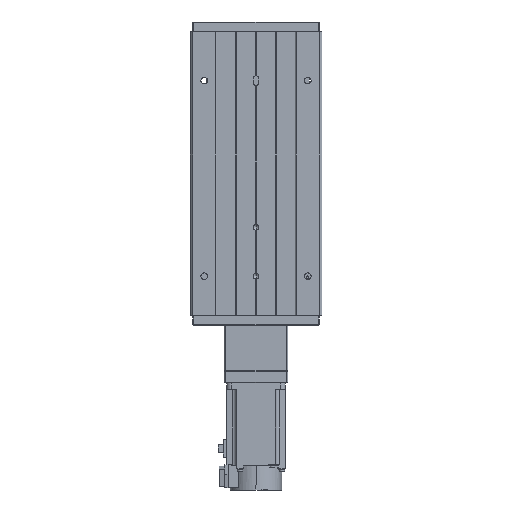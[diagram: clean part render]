
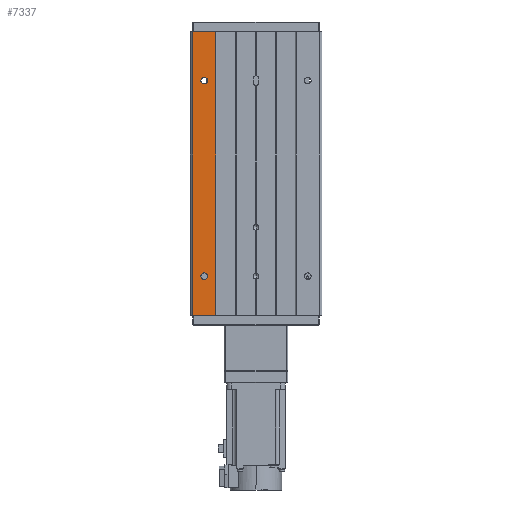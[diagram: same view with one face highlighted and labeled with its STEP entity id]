
A CAD part, front view. The second image highlights one B-rep face of the part: STEP entity #7337.
In plain terms, the highlighted planar face has unit normal (0, -1, 0).
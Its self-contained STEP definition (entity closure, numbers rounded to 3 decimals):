
#81 = LINE ( 'NONE', #12123, #12560 ) ;
#688 = CARTESIAN_POINT ( 'NONE',  ( 53., -1., -95. ) ) ;
#1452 = DIRECTION ( 'NONE',  ( 0., -1., 0. ) ) ;
#2028 = CARTESIAN_POINT ( 'NONE',  ( 41., -1., 145. ) ) ;
#2187 = AXIS2_PLACEMENT_3D ( 'NONE', #28489, #1452, #13483 ) ;
#2190 = CARTESIAN_POINT ( 'NONE',  ( 53., -1., 101.6 ) ) ;
#2231 = EDGE_CURVE ( 'NONE', #30080, #10411, #81, .T. ) ;
#2415 = EDGE_LOOP ( 'NONE', ( #32269, #9621, #26729, #33469 ) ) ;
#3267 = CIRCLE ( 'NONE', #25335, 3.4 ) ;
#4159 = AXIS2_PLACEMENT_3D ( 'NONE', #688, #12728, #24763 ) ;
#4613 = ORIENTED_EDGE ( 'NONE', *, *, #36922, .F. ) ;
#4728 = DIRECTION ( 'NONE',  ( 0., -1., 0. ) ) ;
#6095 = LINE ( 'NONE', #18149, #36548 ) ;
#7329 = CARTESIAN_POINT ( 'NONE',  ( 40., -1., 145. ) ) ;
#7337 = ADVANCED_FACE ( 'NONE', ( #37359, #10309, #22344 ), #34379, .F. ) ;
#7365 = EDGE_CURVE ( 'NONE', #35636, #21245, #14192, .T. ) ;
#8494 = CARTESIAN_POINT ( 'NONE',  ( 40., -1., 145. ) ) ;
#8842 = CARTESIAN_POINT ( 'NONE',  ( 53., -1., -91.6 ) ) ;
#9388 = DIRECTION ( 'NONE',  ( 0., 0., -1. ) ) ;
#9621 = ORIENTED_EDGE ( 'NONE', *, *, #2231, .T. ) ;
#10309 = FACE_BOUND ( 'NONE', #18044, .T. ) ;
#10411 = VERTEX_POINT ( 'NONE', #28324 ) ;
#10498 = ORIENTED_EDGE ( 'NONE', *, *, #33665, .F. ) ;
#12123 = CARTESIAN_POINT ( 'NONE',  ( 64.5, -1., -145. ) ) ;
#12560 = VECTOR ( 'NONE', #24153, 1000. ) ;
#12728 = DIRECTION ( 'NONE',  ( 0., -1., 0. ) ) ;
#13483 = DIRECTION ( 'NONE',  ( 0., 0., -1. ) ) ;
#13908 = CARTESIAN_POINT ( 'NONE',  ( 53., -1., 108.4 ) ) ;
#14192 = LINE ( 'NONE', #26234, #38593 ) ;
#14830 = EDGE_CURVE ( 'NONE', #21245, #30080, #6095, .T. ) ;
#16770 = DIRECTION ( 'NONE',  ( 0., 0., -1. ) ) ;
#17533 = CARTESIAN_POINT ( 'NONE',  ( 41., -1., -145. ) ) ;
#18044 = EDGE_LOOP ( 'NONE', ( #4613, #10498 ) ) ;
#18101 = EDGE_CURVE ( 'NONE', #35636, #10411, #35534, .T. ) ;
#18149 = CARTESIAN_POINT ( 'NONE',  ( 40., -1., -145. ) ) ;
#18409 = AXIS2_PLACEMENT_3D ( 'NONE', #7329, #19382, #31413 ) ;
#19321 = VERTEX_POINT ( 'NONE', #13908 ) ;
#19382 = DIRECTION ( 'NONE',  ( 0., 1., 0. ) ) ;
#19676 = EDGE_CURVE ( 'NONE', #30587, #19321, #26181, .T. ) ;
#20542 = DIRECTION ( 'NONE',  ( 1., 0., 0. ) ) ;
#21175 = CIRCLE ( 'NONE', #4159, 3.4 ) ;
#21245 = VERTEX_POINT ( 'NONE', #17533 ) ;
#22344 = FACE_OUTER_BOUND ( 'NONE', #2415, .T. ) ;
#22693 = CARTESIAN_POINT ( 'NONE',  ( 53., -1., 105. ) ) ;
#23170 = ORIENTED_EDGE ( 'NONE', *, *, #19676, .F. ) ;
#24153 = DIRECTION ( 'NONE',  ( 0., 0., 1. ) ) ;
#24383 = CARTESIAN_POINT ( 'NONE',  ( 53., -1., -95. ) ) ;
#24763 = DIRECTION ( 'NONE',  ( 0., 0., -1. ) ) ;
#24976 = EDGE_LOOP ( 'NONE', ( #23170, #36983 ) ) ;
#25084 = VERTEX_POINT ( 'NONE', #34781 ) ;
#25335 = AXIS2_PLACEMENT_3D ( 'NONE', #24383, #36429, #9388 ) ;
#26181 = CIRCLE ( 'NONE', #31212, 3.4 ) ;
#26234 = CARTESIAN_POINT ( 'NONE',  ( 41., -1., 145. ) ) ;
#26729 = ORIENTED_EDGE ( 'NONE', *, *, #18101, .F. ) ;
#28324 = CARTESIAN_POINT ( 'NONE',  ( 64.5, -1., 145. ) ) ;
#28489 = CARTESIAN_POINT ( 'NONE',  ( 53., -1., 105. ) ) ;
#30080 = VERTEX_POINT ( 'NONE', #34609 ) ;
#30190 = DIRECTION ( 'NONE',  ( 1., 0., 0. ) ) ;
#30587 = VERTEX_POINT ( 'NONE', #2190 ) ;
#31206 = VERTEX_POINT ( 'NONE', #8842 ) ;
#31212 = AXIS2_PLACEMENT_3D ( 'NONE', #22693, #4728, #16770 ) ;
#31413 = DIRECTION ( 'NONE',  ( -1., 0., 0. ) ) ;
#32269 = ORIENTED_EDGE ( 'NONE', *, *, #14830, .T. ) ;
#33469 = ORIENTED_EDGE ( 'NONE', *, *, #7365, .T. ) ;
#33665 = EDGE_CURVE ( 'NONE', #31206, #25084, #3267, .T. ) ;
#34379 = PLANE ( 'NONE',  #18409 ) ;
#34609 = CARTESIAN_POINT ( 'NONE',  ( 64.5, -1., -145. ) ) ;
#34781 = CARTESIAN_POINT ( 'NONE',  ( 53., -1., -98.4 ) ) ;
#35534 = LINE ( 'NONE', #8494, #38695 ) ;
#35542 = EDGE_CURVE ( 'NONE', #19321, #30587, #36225, .T. ) ;
#35636 = VERTEX_POINT ( 'NONE', #2028 ) ;
#36225 = CIRCLE ( 'NONE', #2187, 3.4 ) ;
#36429 = DIRECTION ( 'NONE',  ( 0., -1., 0. ) ) ;
#36548 = VECTOR ( 'NONE', #30190, 1000. ) ;
#36922 = EDGE_CURVE ( 'NONE', #25084, #31206, #21175, .T. ) ;
#36983 = ORIENTED_EDGE ( 'NONE', *, *, #35542, .F. ) ;
#37359 = FACE_BOUND ( 'NONE', #24976, .T. ) ;
#38273 = DIRECTION ( 'NONE',  ( 0., 0., -1. ) ) ;
#38593 = VECTOR ( 'NONE', #38273, 1000. ) ;
#38695 = VECTOR ( 'NONE', #20542, 1000. ) ;
